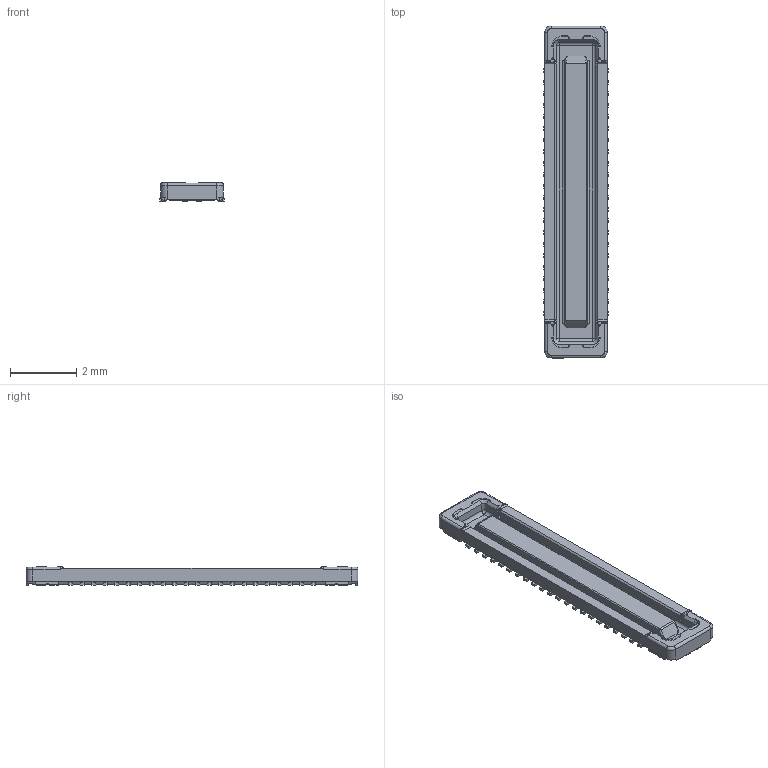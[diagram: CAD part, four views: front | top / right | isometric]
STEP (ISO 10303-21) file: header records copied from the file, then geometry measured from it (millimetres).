
FILE_DESCRIPTION (( 'STEP AP214' ), '1' );
FILE_NAME ('24_5861_044_004_829_+.STEP', '2016-06-02T05:33:11', ( '' ), ( '' ), 'SwSTEP 2.0', 'SolidWorks 2014', '' );
FILE_SCHEMA (( 'AUTOMOTIVE_DESIGN' ));
Length unit declared in the file: millimetre
Products named in the file (1): 24_5861_044_004_829_+
Bounding box: 1.95 x 10.05 x 0.56 mm (x, y, z)
Volume: 6.7 mm3; surface area: 65.1 mm2
Topology: 1 solids, 1 shells, 659 faces, 1864 edges, 1204 vertices
Faces by surface type: plane 399, cylinder 212, bspline 20, torus 16, sphere 8, cone 4
Entity records: 28655 total; most frequent: CARTESIAN_POINT 4558, ORIENTED_EDGE 3704, DIRECTION 3348, EDGE_CURVE 1852, LINE 1332, VECTOR 1332, VERTEX_POINT 1204, AXIS2_PLACEMENT_3D 1008
